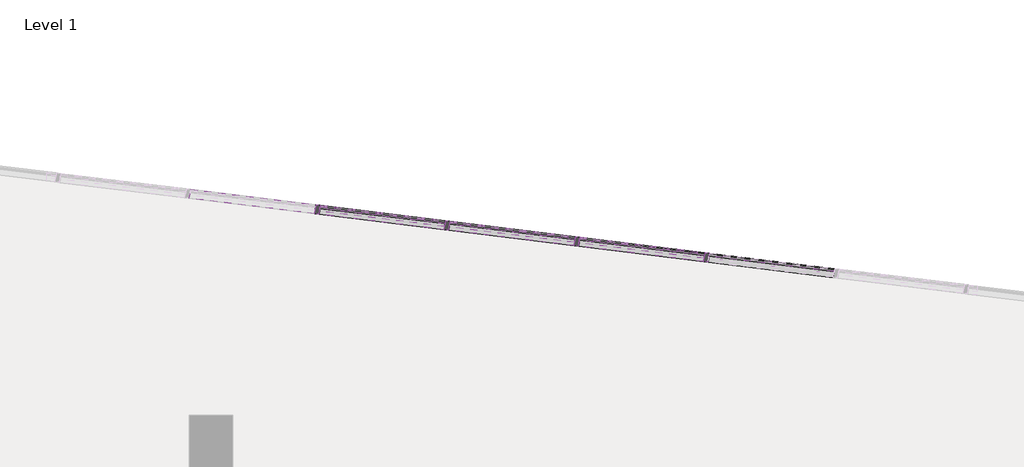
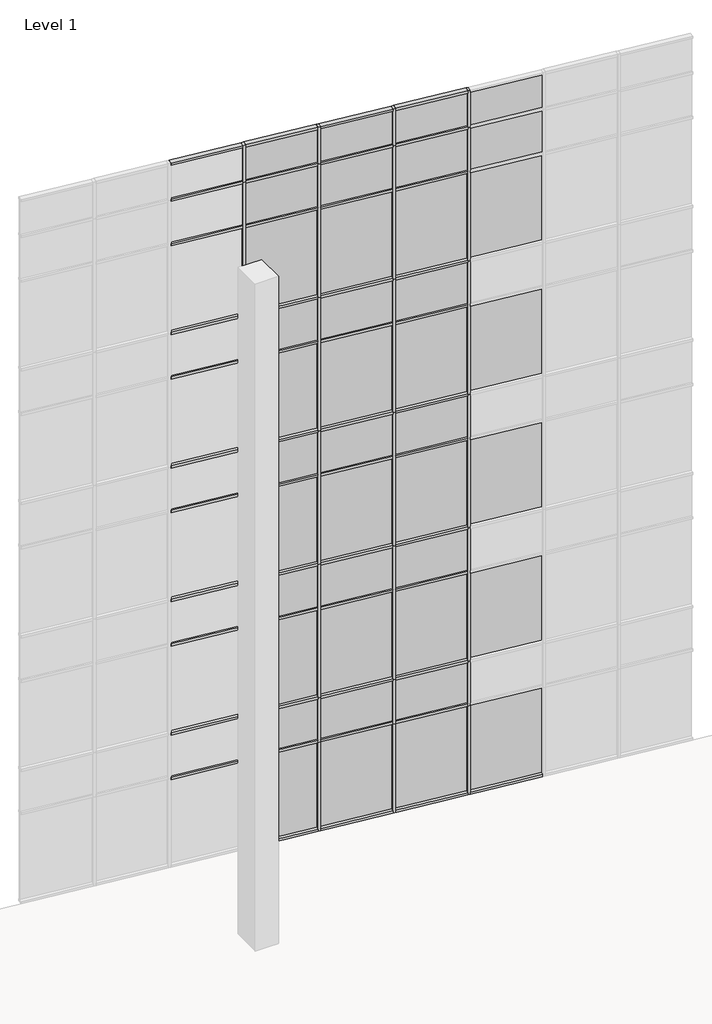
# One storey, part 19 of 23: 76 members, 40 plates.
"""IFC4 building model written with IfcOpenShell, lengths in millimetres."""

from ifc_helpers import new_model, si_unit, origin, place, context, project, spatial, transform, mapped, element, save
from components import member_2b49869a, member_f92b8aa2, member_810865a4, member_f0fea5a5, member_6d5c3e5e, member_9764dd38, system_panel_glazed_14c75400, system_panel_solid_5dfe6f83, system_panel_solid_e25e2004, system_panel_solid_b7551183

model = new_model("IFC4")

# Units and contexts
model_context = context("Model", 3, world=origin())
ifc_project = project(units=[si_unit("LENGTHUNIT", "METRE", prefix="MILLI")], contexts=[model_context])

# Site, building, storey
site = spatial("IfcSite", under=ifc_project)
building = spatial("IfcBuilding", under=site)
storey = spatial("IfcBuildingStorey", under=building, Name="Level 1", Elevation=0.0)

# Members
placement = place(None, origin())
member_shape = member_2b49869a(model_context)
element("IfcMember", 1, ObjectType="Rectangular Mullion : 2.5\" x 5\" rectangular", at=placement, inside=storey, context=model_context, shape_type="MappedRepresentation", body=[
    mapped(member_shape, transform((-5700.4995571, 12571.2945117, 2438.4), x_axis=(0.9925461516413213, -0.12186934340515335, 0.0), y_axis=(-0.12186934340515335, -0.9925461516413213, 0.0), z_axis=(0.0, 0.0, -1.0))),
])
element("IfcMember", 2, ObjectType="Rectangular Mullion : 2.5\" x 5\" rectangular", at=placement, inside=storey, context=model_context, shape_type="MappedRepresentation", body=[
    mapped(member_shape, transform((-2070.1627529, 12125.5452013, 2438.4), x_axis=(0.9925461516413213, -0.12186934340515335, 0.0), y_axis=(-0.12186934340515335, -0.9925461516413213, 0.0), z_axis=(0.0, 0.0, -1.0))),
])
element("IfcMember", 3, ObjectType="Rectangular Mullion : 2.5\" x 5\" rectangular", at=placement, inside=storey, context=model_context, shape_type="MappedRepresentation", body=[
    mapped(member_shape, transform((-3885.331155, 12348.4198565, 2438.4), x_axis=(0.9925461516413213, -0.12186934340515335, 0.0), y_axis=(-0.12186934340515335, -0.9925461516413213, 0.0), z_axis=(0.0, 0.0, -1.0))),
])
member_2_shape = member_f92b8aa2(model_context)
element("IfcMember", 4, ObjectType="Rectangular Mullion : 2.5\" x 5\" rectangular", at=placement, inside=storey, context=model_context, shape_type="MappedRepresentation", body=[
    mapped(member_2_shape, transform((-5700.4995571, 12571.2945117, 18288.0), x_axis=(0.9925461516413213, -0.12186934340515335, 0.0), y_axis=(-0.12186934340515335, -0.9925461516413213, 0.0), z_axis=(0.0, 0.0, -1.0))),
])
element("IfcMember", 5, ObjectType="Rectangular Mullion : 2.5\" x 5\" rectangular", at=placement, inside=storey, context=model_context, shape_type="MappedRepresentation", body=[
    mapped(member_2_shape, transform((-7515.6679592, 12794.169167, 18288.0), x_axis=(0.9925461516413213, -0.12186934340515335, 0.0), y_axis=(-0.12186934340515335, -0.9925461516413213, 0.0), z_axis=(0.0, 0.0, -1.0))),
])
element("IfcMember", 6, ObjectType="Rectangular Mullion : 2.5\" x 5\" rectangular", at=placement, inside=storey, context=model_context, shape_type="MappedRepresentation", body=[
    mapped(member_2_shape, transform((-2070.1627529, 12125.5452013, 18288.0), x_axis=(0.9925461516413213, -0.12186934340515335, 0.0), y_axis=(-0.12186934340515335, -0.9925461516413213, 0.0), z_axis=(0.0, 0.0, -1.0))),
])
element("IfcMember", 7, ObjectType="Rectangular Mullion : 2.5\" x 5\" rectangular", at=placement, inside=storey, context=model_context, shape_type="MappedRepresentation", body=[
    mapped(member_2_shape, transform((-3885.331155, 12348.4198565, 18288.0), x_axis=(0.9925461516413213, -0.12186934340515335, 0.0), y_axis=(-0.12186934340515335, -0.9925461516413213, 0.0), z_axis=(0.0, 0.0, -1.0))),
])
member_3_shape = member_810865a4(model_context)
element("IfcMember", 8, ObjectType="Rectangular Mullion : 2.5\" x 5\" rectangular", at=placement, inside=storey, context=model_context, shape_type="MappedRepresentation", body=[
    mapped(member_3_shape, transform((-3885.331155, 12348.4198565, 7315.2), x_axis=(0.9925461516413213, -0.12186934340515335, 0.0), y_axis=(-0.12186934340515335, -0.9925461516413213, 0.0), z_axis=(0.0, 0.0, -1.0))),
])
element("IfcMember", 9, ObjectType="Rectangular Mullion : 2.5\" x 5\" rectangular", at=placement, inside=storey, context=model_context, shape_type="MappedRepresentation", body=[
    mapped(member_3_shape, transform((-3885.331155, 12348.4198565, 3657.6), x_axis=(0.9925461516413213, -0.12186934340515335, 0.0), y_axis=(-0.12186934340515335, -0.9925461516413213, 0.0), z_axis=(0.0, 0.0, -1.0))),
])
element("IfcMember", 10, ObjectType="Rectangular Mullion : 2.5\" x 5\" rectangular", at=placement, inside=storey, context=model_context, shape_type="MappedRepresentation", body=[
    mapped(member_3_shape, transform((-5700.4995571, 12571.2945117, 14630.4), x_axis=(0.9925461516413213, -0.12186934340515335, 0.0), y_axis=(-0.12186934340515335, -0.9925461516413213, 0.0), z_axis=(0.0, 0.0, -1.0))),
])
element("IfcMember", 11, ObjectType="Rectangular Mullion : 2.5\" x 5\" rectangular", at=placement, inside=storey, context=model_context, shape_type="MappedRepresentation", body=[
    mapped(member_3_shape, transform((-5700.4995571, 12571.2945117, 10972.8), x_axis=(0.9925461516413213, -0.12186934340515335, 0.0), y_axis=(-0.12186934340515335, -0.9925461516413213, 0.0), z_axis=(0.0, 0.0, -1.0))),
])
element("IfcMember", 12, ObjectType="Rectangular Mullion : 2.5\" x 5\" rectangular", at=placement, inside=storey, context=model_context, shape_type="MappedRepresentation", body=[
    mapped(member_3_shape, transform((-5700.4995571, 12571.2945117, 7315.2), x_axis=(0.9925461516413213, -0.12186934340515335, 0.0), y_axis=(-0.12186934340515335, -0.9925461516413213, 0.0), z_axis=(0.0, 0.0, -1.0))),
])
element("IfcMember", 13, ObjectType="Rectangular Mullion : 2.5\" x 5\" rectangular", at=placement, inside=storey, context=model_context, shape_type="MappedRepresentation", body=[
    mapped(member_3_shape, transform((-5700.4995571, 12571.2945117, 3657.6), x_axis=(0.9925461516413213, -0.12186934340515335, 0.0), y_axis=(-0.12186934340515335, -0.9925461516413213, 0.0), z_axis=(0.0, 0.0, -1.0))),
])
element("IfcMember", 14, ObjectType="Rectangular Mullion : 2.5\" x 5\" rectangular", at=placement, inside=storey, context=model_context, shape_type="MappedRepresentation", body=[
    mapped(member_3_shape, transform((-7515.6679592, 12794.169167, 14630.4), x_axis=(0.9925461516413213, -0.12186934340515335, 0.0), y_axis=(-0.12186934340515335, -0.9925461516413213, 0.0), z_axis=(0.0, 0.0, -1.0))),
])
element("IfcMember", 15, ObjectType="Rectangular Mullion : 2.5\" x 5\" rectangular", at=placement, inside=storey, context=model_context, shape_type="MappedRepresentation", body=[
    mapped(member_3_shape, transform((-7515.6679592, 12794.169167, 10972.8), x_axis=(0.9925461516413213, -0.12186934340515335, 0.0), y_axis=(-0.12186934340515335, -0.9925461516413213, 0.0), z_axis=(0.0, 0.0, -1.0))),
])
element("IfcMember", 16, ObjectType="Rectangular Mullion : 2.5\" x 5\" rectangular", at=placement, inside=storey, context=model_context, shape_type="MappedRepresentation", body=[
    mapped(member_3_shape, transform((-7515.6679592, 12794.169167, 7315.2), x_axis=(0.9925461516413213, -0.12186934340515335, 0.0), y_axis=(-0.12186934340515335, -0.9925461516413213, 0.0), z_axis=(0.0, 0.0, -1.0))),
])
element("IfcMember", 17, ObjectType="Rectangular Mullion : 2.5\" x 5\" rectangular", at=placement, inside=storey, context=model_context, shape_type="MappedRepresentation", body=[
    mapped(member_3_shape, transform((-7515.6679592, 12794.169167, 3657.6), x_axis=(0.9925461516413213, -0.12186934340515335, 0.0), y_axis=(-0.12186934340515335, -0.9925461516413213, 0.0), z_axis=(0.0, 0.0, -1.0))),
])
element("IfcMember", 18, ObjectType="Rectangular Mullion : 2.5\" x 5\" rectangular", at=placement, inside=storey, context=model_context, shape_type="MappedRepresentation", body=[
    mapped(member_3_shape, transform((-2070.1627529, 12125.5452013, 14630.4), x_axis=(0.9925461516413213, -0.12186934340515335, 0.0), y_axis=(-0.12186934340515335, -0.9925461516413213, 0.0), z_axis=(0.0, 0.0, -1.0))),
])
element("IfcMember", 19, ObjectType="Rectangular Mullion : 2.5\" x 5\" rectangular", at=placement, inside=storey, context=model_context, shape_type="MappedRepresentation", body=[
    mapped(member_3_shape, transform((-2070.1627529, 12125.5452013, 10972.8), x_axis=(0.9925461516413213, -0.12186934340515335, 0.0), y_axis=(-0.12186934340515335, -0.9925461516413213, 0.0), z_axis=(0.0, 0.0, -1.0))),
])
element("IfcMember", 20, ObjectType="Rectangular Mullion : 2.5\" x 5\" rectangular", at=placement, inside=storey, context=model_context, shape_type="MappedRepresentation", body=[
    mapped(member_3_shape, transform((-2070.1627529, 12125.5452013, 7315.2), x_axis=(0.9925461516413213, -0.12186934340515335, 0.0), y_axis=(-0.12186934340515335, -0.9925461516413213, 0.0), z_axis=(0.0, 0.0, -1.0))),
])
element("IfcMember", 21, ObjectType="Rectangular Mullion : 2.5\" x 5\" rectangular", at=placement, inside=storey, context=model_context, shape_type="MappedRepresentation", body=[
    mapped(member_3_shape, transform((-2070.1627529, 12125.5452013, 3657.6), x_axis=(0.9925461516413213, -0.12186934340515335, 0.0), y_axis=(-0.12186934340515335, -0.9925461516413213, 0.0), z_axis=(0.0, 0.0, -1.0))),
])
element("IfcMember", 22, ObjectType="Rectangular Mullion : 2.5\" x 5\" rectangular", at=placement, inside=storey, context=model_context, shape_type="MappedRepresentation", body=[
    mapped(member_3_shape, transform((-3885.331155, 12348.4198565, 14630.4), x_axis=(0.9925461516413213, -0.12186934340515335, 0.0), y_axis=(-0.12186934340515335, -0.9925461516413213, 0.0), z_axis=(0.0, 0.0, -1.0))),
])
element("IfcMember", 23, ObjectType="Rectangular Mullion : 2.5\" x 5\" rectangular", at=placement, inside=storey, context=model_context, shape_type="MappedRepresentation", body=[
    mapped(member_3_shape, transform((-3885.331155, 12348.4198565, 10972.8), x_axis=(0.9925461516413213, -0.12186934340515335, 0.0), y_axis=(-0.12186934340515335, -0.9925461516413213, 0.0), z_axis=(0.0, 0.0, -1.0))),
])
member_4_shape = member_f0fea5a5(model_context)
element("IfcMember", 24, ObjectType="Rectangular Mullion : 2.5\" x 5\" rectangular", at=placement, inside=storey, context=model_context, shape_type="MappedRepresentation", body=[
    mapped(member_4_shape, transform((-3885.331155, 12348.4198565, 0.0), x_axis=(0.9925461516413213, -0.12186934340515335, 0.0), y_axis=(-0.12186934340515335, -0.9925461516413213, 0.0), z_axis=(0.0, 0.0, -1.0))),
])
element("IfcMember", 25, ObjectType="Rectangular Mullion : 2.5\" x 5\" rectangular", at=placement, inside=storey, context=model_context, shape_type="MappedRepresentation", body=[
    mapped(member_4_shape, transform((-5700.4995571, 12571.2945117, 0.0), x_axis=(0.9925461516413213, -0.12186934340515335, 0.0), y_axis=(-0.12186934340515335, -0.9925461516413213, 0.0), z_axis=(0.0, 0.0, -1.0))),
])
element("IfcMember", 26, ObjectType="Rectangular Mullion : 2.5\" x 5\" rectangular", at=placement, inside=storey, context=model_context, shape_type="MappedRepresentation", body=[
    mapped(member_4_shape, transform((-2070.1627529, 12125.5452013, 0.0), x_axis=(0.9925461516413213, -0.12186934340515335, 0.0), y_axis=(-0.12186934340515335, -0.9925461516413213, 0.0), z_axis=(0.0, 0.0, -1.0))),
])
element("IfcMember", 27, ObjectType="Rectangular Mullion : 2.5\" x 5\" rectangular", at=placement, inside=storey, context=model_context, shape_type="MappedRepresentation", body=[
    mapped(member_4_shape, transform((-7515.6679592, 12794.169167, 0.0), x_axis=(0.9925461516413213, -0.12186934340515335, 0.0), y_axis=(-0.12186934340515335, -0.9925461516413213, 0.0), z_axis=(0.0, 0.0, -1.0))),
])
element("IfcMember", 28, ObjectType="Rectangular Mullion : 2.5\" x 5\" rectangular", at=placement, inside=storey, context=model_context, shape_type="MappedRepresentation", body=[
    mapped(member_shape, transform((-7515.6679592, 12794.169167, 2438.4), x_axis=(0.9925461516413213, -0.12186934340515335, 0.0), y_axis=(-0.12186934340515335, -0.9925461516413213, 0.0), z_axis=(0.0, 0.0, -1.0))),
])
member_5_shape = member_6d5c3e5e(model_context)
element("IfcMember", 29, ObjectType="Rectangular Mullion : 2.5\" x 5\" rectangular", at=placement, inside=storey, context=model_context, shape_type="MappedRepresentation", body=[
    mapped(member_5_shape, transform((-2101.6760932, 12129.414553, 19304.0), x_axis=(0.0, 0.0, 1.0), y_axis=(-0.12186934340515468, -0.9925461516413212, 0.0), z_axis=(0.9925461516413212, -0.12186934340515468, 0.0))),
])
element("IfcMember", 30, ObjectType="Rectangular Mullion : 2.5\" x 5\" rectangular", at=placement, inside=storey, context=model_context, shape_type="MappedRepresentation", body=[
    mapped(member_5_shape, transform((-3916.8444953, 12352.2892082, 19304.0), x_axis=(0.0, 0.0, 1.0), y_axis=(-0.12186934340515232, -0.9925461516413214, 0.0), z_axis=(0.9925461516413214, -0.12186934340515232, 0.0))),
])
element("IfcMember", 31, ObjectType="Rectangular Mullion : 2.5\" x 5\" rectangular", at=placement, inside=storey, context=model_context, shape_type="MappedRepresentation", body=[
    mapped(member_5_shape, transform((-5732.0128974, 12575.1638634, 19304.0), x_axis=(0.0, 0.0, 1.0), y_axis=(-0.12186934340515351, -0.9925461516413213, 0.0), z_axis=(0.9925461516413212, -0.1218693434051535, 0.0))),
])
element("IfcMember", 32, ObjectType="Rectangular Mullion : 2.5\" x 5\" rectangular", at=placement, inside=storey, context=model_context, shape_type="MappedRepresentation", body=[
    mapped(member_5_shape, transform((-7547.1812995, 12798.0385186, 19304.0), x_axis=(0.0, 0.0, 1.0), y_axis=(-0.12186934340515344, -0.9925461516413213, 0.0), z_axis=(0.9925461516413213, -0.12186934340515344, 0.0))),
])
member_6_shape = member_9764dd38(model_context)
element("IfcMember", 33, ObjectType="Rectangular Mullion : 2.5\" x 5\" rectangular", at=placement, inside=storey, context=model_context, shape_type="MappedRepresentation", body=[
    mapped(member_6_shape, transform((-2101.6760932, 12129.414553, 17068.8), x_axis=(0.0, 0.0, 1.0), y_axis=(-0.12186934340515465, -0.9925461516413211, 0.0), z_axis=(0.9925461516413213, -0.12186934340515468, 0.0))),
])
element("IfcMember", 34, ObjectType="Rectangular Mullion : 2.5\" x 5\" rectangular", at=placement, inside=storey, context=model_context, shape_type="MappedRepresentation", body=[
    mapped(member_6_shape, transform((-3916.8444953, 12352.2892082, 17068.8), x_axis=(0.0, 0.0, 1.0), y_axis=(-0.1218693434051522, -0.9925461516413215, 0.0), z_axis=(0.9925461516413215, -0.1218693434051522, 0.0))),
])
element("IfcMember", 35, ObjectType="Rectangular Mullion : 2.5\" x 5\" rectangular", at=placement, inside=storey, context=model_context, shape_type="MappedRepresentation", body=[
    mapped(member_6_shape, transform((-5732.0128974, 12575.1638634, 17068.8), x_axis=(0.0, 0.0, 1.0), y_axis=(-0.12186934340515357, -0.9925461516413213, 0.0), z_axis=(0.9925461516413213, -0.12186934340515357, 0.0))),
])
element("IfcMember", 36, ObjectType="Rectangular Mullion : 2.5\" x 5\" rectangular", at=placement, inside=storey, context=model_context, shape_type="MappedRepresentation", body=[
    mapped(member_6_shape, transform((-7547.1812995, 12798.0385186, 17068.8), x_axis=(0.0, 0.0, 1.0), y_axis=(-0.12186934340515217, -0.9925461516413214, 0.0), z_axis=(0.9925461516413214, -0.12186934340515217, 0.0))),
])
element("IfcMember", 37, ObjectType="Rectangular Mullion : 2.5\" x 5\" rectangular", at=placement, inside=storey, context=model_context, shape_type="MappedRepresentation", body=[
    mapped(member_6_shape, transform((-2101.6760932, 12129.414553, 13411.2), x_axis=(0.0, 0.0, 1.0), y_axis=(-0.12186934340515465, -0.9925461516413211, 0.0), z_axis=(0.9925461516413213, -0.12186934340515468, 0.0))),
])
element("IfcMember", 38, ObjectType="Rectangular Mullion : 2.5\" x 5\" rectangular", at=placement, inside=storey, context=model_context, shape_type="MappedRepresentation", body=[
    mapped(member_6_shape, transform((-3916.8444953, 12352.2892082, 13411.2), x_axis=(0.0, 0.0, 1.0), y_axis=(-0.1218693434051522, -0.9925461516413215, 0.0), z_axis=(0.9925461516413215, -0.1218693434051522, 0.0))),
])
element("IfcMember", 39, ObjectType="Rectangular Mullion : 2.5\" x 5\" rectangular", at=placement, inside=storey, context=model_context, shape_type="MappedRepresentation", body=[
    mapped(member_6_shape, transform((-5732.0128974, 12575.1638634, 13411.2), x_axis=(0.0, 0.0, 1.0), y_axis=(-0.12186934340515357, -0.9925461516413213, 0.0), z_axis=(0.9925461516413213, -0.12186934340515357, 0.0))),
])
element("IfcMember", 40, ObjectType="Rectangular Mullion : 2.5\" x 5\" rectangular", at=placement, inside=storey, context=model_context, shape_type="MappedRepresentation", body=[
    mapped(member_6_shape, transform((-7547.1812995, 12798.0385186, 13411.2), x_axis=(0.0, 0.0, 1.0), y_axis=(-0.12186934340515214, -0.9925461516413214, 0.0), z_axis=(0.9925461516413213, -0.12186934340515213, 0.0))),
])
element("IfcMember", 41, ObjectType="Rectangular Mullion : 2.5\" x 5\" rectangular", at=placement, inside=storey, context=model_context, shape_type="MappedRepresentation", body=[
    mapped(member_6_shape, transform((-2101.6760932, 12129.414553, 9753.6), x_axis=(0.0, 0.0, 1.0), y_axis=(-0.12186934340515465, -0.9925461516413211, 0.0), z_axis=(0.9925461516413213, -0.12186934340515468, 0.0))),
])
element("IfcMember", 42, ObjectType="Rectangular Mullion : 2.5\" x 5\" rectangular", at=placement, inside=storey, context=model_context, shape_type="MappedRepresentation", body=[
    mapped(member_6_shape, transform((-3916.8444953, 12352.2892082, 9753.6), x_axis=(0.0, 0.0, 1.0), y_axis=(-0.12186934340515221, -0.9925461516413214, 0.0), z_axis=(0.9925461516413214, -0.12186934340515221, 0.0))),
])
element("IfcMember", 43, ObjectType="Rectangular Mullion : 2.5\" x 5\" rectangular", at=placement, inside=storey, context=model_context, shape_type="MappedRepresentation", body=[
    mapped(member_6_shape, transform((-5732.0128974, 12575.1638634, 9753.6), x_axis=(0.0, 0.0, 1.0), y_axis=(-0.12186934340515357, -0.9925461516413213, 0.0), z_axis=(0.9925461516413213, -0.12186934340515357, 0.0))),
])
element("IfcMember", 44, ObjectType="Rectangular Mullion : 2.5\" x 5\" rectangular", at=placement, inside=storey, context=model_context, shape_type="MappedRepresentation", body=[
    mapped(member_6_shape, transform((-7547.1812995, 12798.0385186, 9753.6), x_axis=(0.0, 0.0, 1.0), y_axis=(-0.12186934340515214, -0.9925461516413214, 0.0), z_axis=(0.9925461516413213, -0.12186934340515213, 0.0))),
])
element("IfcMember", 45, ObjectType="Rectangular Mullion : 2.5\" x 5\" rectangular", at=placement, inside=storey, context=model_context, shape_type="MappedRepresentation", body=[
    mapped(member_6_shape, transform((-2101.6760932, 12129.414553, 6096.0), x_axis=(0.0, 0.0, 1.0), y_axis=(-0.12186934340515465, -0.9925461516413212, 0.0), z_axis=(0.9925461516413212, -0.12186934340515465, 0.0))),
])
element("IfcMember", 46, ObjectType="Rectangular Mullion : 2.5\" x 5\" rectangular", at=placement, inside=storey, context=model_context, shape_type="MappedRepresentation", body=[
    mapped(member_6_shape, transform((-3916.8444953, 12352.2892082, 6096.0), x_axis=(0.0, 0.0, 1.0), y_axis=(-0.12186934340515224, -0.9925461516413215, 0.0), z_axis=(0.9925461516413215, -0.12186934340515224, 0.0))),
])
element("IfcMember", 47, ObjectType="Rectangular Mullion : 2.5\" x 5\" rectangular", at=placement, inside=storey, context=model_context, shape_type="MappedRepresentation", body=[
    mapped(member_6_shape, transform((-5732.0128974, 12575.1638634, 6096.0), x_axis=(0.0, 0.0, 1.0), y_axis=(-0.12186934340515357, -0.9925461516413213, 0.0), z_axis=(0.9925461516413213, -0.12186934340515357, 0.0))),
])
element("IfcMember", 48, ObjectType="Rectangular Mullion : 2.5\" x 5\" rectangular", at=placement, inside=storey, context=model_context, shape_type="MappedRepresentation", body=[
    mapped(member_6_shape, transform((-7547.1812995, 12798.0385186, 6096.0), x_axis=(0.0, 0.0, 1.0), y_axis=(-0.12186934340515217, -0.9925461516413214, 0.0), z_axis=(0.9925461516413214, -0.12186934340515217, 0.0))),
])
element("IfcMember", 49, ObjectType="Rectangular Mullion : 2.5\" x 5\" rectangular", at=placement, inside=storey, context=model_context, shape_type="MappedRepresentation", body=[
    mapped(member_6_shape, transform((-2101.6760932, 12129.414553, 2470.15), x_axis=(0.0, 0.0, 1.0), y_axis=(-0.12186934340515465, -0.9925461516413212, 0.0), z_axis=(0.9925461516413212, -0.12186934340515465, 0.0))),
])
element("IfcMember", 50, ObjectType="Rectangular Mullion : 2.5\" x 5\" rectangular", at=placement, inside=storey, context=model_context, shape_type="MappedRepresentation", body=[
    mapped(member_6_shape, transform((-3916.8444953, 12352.2892082, 2470.15), x_axis=(0.0, 0.0, 1.0), y_axis=(-0.12186934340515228, -0.9925461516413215, 0.0), z_axis=(0.9925461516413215, -0.12186934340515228, 0.0))),
])
element("IfcMember", 51, ObjectType="Rectangular Mullion : 2.5\" x 5\" rectangular", at=placement, inside=storey, context=model_context, shape_type="MappedRepresentation", body=[
    mapped(member_6_shape, transform((-5732.0128974, 12575.1638634, 2470.15), x_axis=(0.0, 0.0, 1.0), y_axis=(-0.12186934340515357, -0.9925461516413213, 0.0), z_axis=(0.9925461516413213, -0.12186934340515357, 0.0))),
])
element("IfcMember", 52, ObjectType="Rectangular Mullion : 2.5\" x 5\" rectangular", at=placement, inside=storey, context=model_context, shape_type="MappedRepresentation", body=[
    mapped(member_5_shape, transform((-2038.6494126, 12121.6758497, 0.0), x_axis=(0.0, 0.0, -1.0), y_axis=(-0.12186934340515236, -0.9925461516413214, 0.0), z_axis=(-0.9925461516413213, 0.12186934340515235, 0.0))),
])
element("IfcMember", 53, ObjectType="Rectangular Mullion : 2.5\" x 5\" rectangular", at=placement, inside=storey, context=model_context, shape_type="MappedRepresentation", body=[
    mapped(member_5_shape, transform((-3853.8178147, 12344.5505049, 0.0), x_axis=(0.0, 0.0, -1.0), y_axis=(-0.12186934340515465, -0.9925461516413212, 0.0), z_axis=(-0.9925461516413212, 0.12186934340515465, 0.0))),
])
element("IfcMember", 54, ObjectType="Rectangular Mullion : 2.5\" x 5\" rectangular", at=placement, inside=storey, context=model_context, shape_type="MappedRepresentation", body=[
    mapped(member_5_shape, transform((-5668.9862168, 12567.4251601, 0.0), x_axis=(0.0, 0.0, -1.0), y_axis=(-0.12186934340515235, -0.9925461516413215, 0.0), z_axis=(-0.9925461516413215, 0.12186934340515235, 0.0))),
])
element("IfcMember", 55, ObjectType="Rectangular Mullion : 2.5\" x 5\" rectangular", at=placement, inside=storey, context=model_context, shape_type="MappedRepresentation", body=[
    mapped(member_5_shape, transform((-7484.1546189, 12790.2998153, 0.0), x_axis=(0.0, 0.0, -1.0), y_axis=(-0.12186934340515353, -0.9925461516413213, 0.0), z_axis=(-0.9925461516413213, 0.12186934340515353, 0.0))),
])
element("IfcMember", 56, ObjectType="Rectangular Mullion : 2.5\" x 5\" rectangular", at=placement, inside=storey, context=model_context, shape_type="MappedRepresentation", body=[
    mapped(member_6_shape, transform((-2101.6760932, 12129.414553, 3657.6), x_axis=(0.0, 0.0, 1.0), y_axis=(-0.12186934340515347, -0.9925461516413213, 0.0), z_axis=(0.9925461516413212, -0.12186934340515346, 0.0))),
])
element("IfcMember", 57, ObjectType="Rectangular Mullion : 2.5\" x 5\" rectangular", at=placement, inside=storey, context=model_context, shape_type="MappedRepresentation", body=[
    mapped(member_6_shape, transform((-3916.8444953, 12352.2892082, 3657.6), x_axis=(0.0, 0.0, 1.0), y_axis=(-0.12186934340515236, -0.9925461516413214, 0.0), z_axis=(0.9925461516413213, -0.12186934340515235, 0.0))),
])
element("IfcMember", 58, ObjectType="Rectangular Mullion : 2.5\" x 5\" rectangular", at=placement, inside=storey, context=model_context, shape_type="MappedRepresentation", body=[
    mapped(member_6_shape, transform((-5732.0128974, 12575.1638634, 3657.6), x_axis=(0.0, 0.0, 1.0), y_axis=(-0.12186934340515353, -0.9925461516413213, 0.0), z_axis=(0.9925461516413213, -0.12186934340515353, 0.0))),
])
element("IfcMember", 59, ObjectType="Rectangular Mullion : 2.5\" x 5\" rectangular", at=placement, inside=storey, context=model_context, shape_type="MappedRepresentation", body=[
    mapped(member_6_shape, transform((-7547.1812995, 12798.0385186, 3657.6), x_axis=(0.0, 0.0, 1.0), y_axis=(-0.12186934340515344, -0.9925461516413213, 0.0), z_axis=(0.9925461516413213, -0.12186934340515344, 0.0))),
])
element("IfcMember", 60, ObjectType="Rectangular Mullion : 2.5\" x 5\" rectangular", at=placement, inside=storey, context=model_context, shape_type="MappedRepresentation", body=[
    mapped(member_6_shape, transform((-2101.6760932, 12129.414553, 10972.8), x_axis=(0.0, 0.0, 1.0), y_axis=(-0.12186934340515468, -0.9925461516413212, 0.0), z_axis=(0.9925461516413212, -0.12186934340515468, 0.0))),
])
element("IfcMember", 61, ObjectType="Rectangular Mullion : 2.5\" x 5\" rectangular", at=placement, inside=storey, context=model_context, shape_type="MappedRepresentation", body=[
    mapped(member_6_shape, transform((-3916.8444953, 12352.2892082, 10972.8), x_axis=(0.0, 0.0, 1.0), y_axis=(-0.12186934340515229, -0.9925461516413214, 0.0), z_axis=(0.9925461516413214, -0.12186934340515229, 0.0))),
])
element("IfcMember", 62, ObjectType="Rectangular Mullion : 2.5\" x 5\" rectangular", at=placement, inside=storey, context=model_context, shape_type="MappedRepresentation", body=[
    mapped(member_6_shape, transform((-5732.0128974, 12575.1638634, 10972.8), x_axis=(0.0, 0.0, 1.0), y_axis=(-0.12186934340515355, -0.9925461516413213, 0.0), z_axis=(0.9925461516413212, -0.12186934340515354, 0.0))),
])
element("IfcMember", 63, ObjectType="Rectangular Mullion : 2.5\" x 5\" rectangular", at=placement, inside=storey, context=model_context, shape_type="MappedRepresentation", body=[
    mapped(member_6_shape, transform((-7547.1812995, 12798.0385186, 10972.8), x_axis=(0.0, 0.0, 1.0), y_axis=(-0.12186934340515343, -0.9925461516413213, 0.0), z_axis=(0.9925461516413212, -0.12186934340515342, 0.0))),
])
element("IfcMember", 64, ObjectType="Rectangular Mullion : 2.5\" x 5\" rectangular", at=placement, inside=storey, context=model_context, shape_type="MappedRepresentation", body=[
    mapped(member_6_shape, transform((-2101.6760932, 12129.414553, 14630.4), x_axis=(0.0, 0.0, 1.0), y_axis=(-0.12186934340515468, -0.9925461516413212, 0.0), z_axis=(0.9925461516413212, -0.12186934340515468, 0.0))),
])
element("IfcMember", 65, ObjectType="Rectangular Mullion : 2.5\" x 5\" rectangular", at=placement, inside=storey, context=model_context, shape_type="MappedRepresentation", body=[
    mapped(member_6_shape, transform((-3916.8444953, 12352.2892082, 14630.4), x_axis=(0.0, 0.0, 1.0), y_axis=(-0.12186934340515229, -0.9925461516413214, 0.0), z_axis=(0.9925461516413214, -0.12186934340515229, 0.0))),
])
element("IfcMember", 66, ObjectType="Rectangular Mullion : 2.5\" x 5\" rectangular", at=placement, inside=storey, context=model_context, shape_type="MappedRepresentation", body=[
    mapped(member_6_shape, transform((-5732.0128974, 12575.1638634, 14630.4), x_axis=(0.0, 0.0, 1.0), y_axis=(-0.12186934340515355, -0.9925461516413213, 0.0), z_axis=(0.9925461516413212, -0.12186934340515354, 0.0))),
])
element("IfcMember", 67, ObjectType="Rectangular Mullion : 2.5\" x 5\" rectangular", at=placement, inside=storey, context=model_context, shape_type="MappedRepresentation", body=[
    mapped(member_6_shape, transform((-7547.1812995, 12798.0385186, 14630.4), x_axis=(0.0, 0.0, 1.0), y_axis=(-0.12186934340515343, -0.9925461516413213, 0.0), z_axis=(0.9925461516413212, -0.12186934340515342, 0.0))),
])
element("IfcMember", 68, ObjectType="Rectangular Mullion : 2.5\" x 5\" rectangular", at=placement, inside=storey, context=model_context, shape_type="MappedRepresentation", body=[
    mapped(member_6_shape, transform((-2101.6760932, 12129.414553, 7315.2), x_axis=(0.0, 0.0, 1.0), y_axis=(-0.12186934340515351, -0.9925461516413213, 0.0), z_axis=(0.9925461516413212, -0.1218693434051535, 0.0))),
])
element("IfcMember", 69, ObjectType="Rectangular Mullion : 2.5\" x 5\" rectangular", at=placement, inside=storey, context=model_context, shape_type="MappedRepresentation", body=[
    mapped(member_6_shape, transform((-3916.8444953, 12352.2892082, 7315.2), x_axis=(0.0, 0.0, 1.0), y_axis=(-0.12186934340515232, -0.9925461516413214, 0.0), z_axis=(0.9925461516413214, -0.12186934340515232, 0.0))),
])
element("IfcMember", 70, ObjectType="Rectangular Mullion : 2.5\" x 5\" rectangular", at=placement, inside=storey, context=model_context, shape_type="MappedRepresentation", body=[
    mapped(member_6_shape, transform((-5732.0128974, 12575.1638634, 7315.2), x_axis=(0.0, 0.0, 1.0), y_axis=(-0.12186934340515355, -0.9925461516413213, 0.0), z_axis=(0.9925461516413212, -0.12186934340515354, 0.0))),
])
element("IfcMember", 71, ObjectType="Rectangular Mullion : 2.5\" x 5\" rectangular", at=placement, inside=storey, context=model_context, shape_type="MappedRepresentation", body=[
    mapped(member_6_shape, transform((-7547.1812995, 12798.0385186, 7315.2), x_axis=(0.0, 0.0, 1.0), y_axis=(-0.12186934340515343, -0.9925461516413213, 0.0), z_axis=(0.9925461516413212, -0.12186934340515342, 0.0))),
])
element("IfcMember", 72, ObjectType="Rectangular Mullion : 2.5\" x 5\" rectangular", at=placement, inside=storey, context=model_context, shape_type="MappedRepresentation", body=[
    mapped(member_6_shape, transform((-7547.1812995, 12798.0385186, 2438.4), x_axis=(0.0, 0.0, 1.0), y_axis=(-0.12186934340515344, -0.9925461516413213, 0.0), z_axis=(0.9925461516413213, -0.12186934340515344, 0.0))),
])
element("IfcMember", 73, ObjectType="Rectangular Mullion : 2.5\" x 5\" rectangular", at=placement, inside=storey, context=model_context, shape_type="MappedRepresentation", body=[
    mapped(member_6_shape, transform((-2101.6760932, 12129.414553, 18288.0), x_axis=(0.0, 0.0, 1.0), y_axis=(-0.12186934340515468, -0.9925461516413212, 0.0), z_axis=(0.9925461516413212, -0.12186934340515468, 0.0))),
])
element("IfcMember", 74, ObjectType="Rectangular Mullion : 2.5\" x 5\" rectangular", at=placement, inside=storey, context=model_context, shape_type="MappedRepresentation", body=[
    mapped(member_6_shape, transform((-3916.8444953, 12352.2892082, 18288.0), x_axis=(0.0, 0.0, 1.0), y_axis=(-0.12186934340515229, -0.9925461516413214, 0.0), z_axis=(0.9925461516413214, -0.12186934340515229, 0.0))),
])
element("IfcMember", 75, ObjectType="Rectangular Mullion : 2.5\" x 5\" rectangular", at=placement, inside=storey, context=model_context, shape_type="MappedRepresentation", body=[
    mapped(member_6_shape, transform((-5732.0128974, 12575.1638634, 18288.0), x_axis=(0.0, 0.0, 1.0), y_axis=(-0.12186934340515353, -0.9925461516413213, 0.0), z_axis=(0.9925461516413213, -0.12186934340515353, 0.0))),
])
element("IfcMember", 76, ObjectType="Rectangular Mullion : 2.5\" x 5\" rectangular", at=placement, inside=storey, context=model_context, shape_type="MappedRepresentation", body=[
    mapped(member_6_shape, transform((-7547.1812995, 12798.0385186, 18288.0), x_axis=(0.0, 0.0, 1.0), y_axis=(-0.12186934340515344, -0.9925461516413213, 0.0), z_axis=(0.9925461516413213, -0.12186934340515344, 0.0))),
])

# Plates
system_panel_glazed_shape = system_panel_glazed_14c75400(model_context)
element("IfcPlate", 77, ObjectType="System Panel : Glazed", at=placement, inside=storey, context=model_context, shape_type="MappedRepresentation", body=[
    mapped(system_panel_glazed_shape, transform((-1162.5785518, 12014.1078737, 14662.15), x_axis=(0.9925461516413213, -0.12186934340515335, 0.0), y_axis=(0.12186934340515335, 0.9925461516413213, 0.0), z_axis=(0.0, 0.0, 1.0))),
])
element("IfcPlate", 78, ObjectType="System Panel : Glazed", at=placement, inside=storey, context=model_context, shape_type="MappedRepresentation", body=[
    mapped(system_panel_glazed_shape, transform((-2977.7469539, 12236.9825289, 14662.15), x_axis=(0.9925461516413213, -0.12186934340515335, 0.0), y_axis=(0.12186934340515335, 0.9925461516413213, 0.0), z_axis=(0.0, 0.0, 1.0))),
])
element("IfcPlate", 79, ObjectType="System Panel : Glazed", at=placement, inside=storey, context=model_context, shape_type="MappedRepresentation", body=[
    mapped(system_panel_glazed_shape, transform((-4792.9153561, 12459.8571841, 14662.15), x_axis=(0.9925461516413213, -0.12186934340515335, 0.0), y_axis=(0.12186934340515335, 0.9925461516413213, 0.0), z_axis=(0.0, 0.0, 1.0))),
])
element("IfcPlate", 80, ObjectType="System Panel : Glazed", at=placement, inside=storey, context=model_context, shape_type="MappedRepresentation", body=[
    mapped(system_panel_glazed_shape, transform((-6608.0837582, 12682.7318394, 14662.15), x_axis=(0.9925461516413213, -0.12186934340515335, 0.0), y_axis=(0.12186934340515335, 0.9925461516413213, 0.0), z_axis=(0.0, 0.0, 1.0))),
])
element("IfcPlate", 81, ObjectType="System Panel : Glazed", at=placement, inside=storey, context=model_context, shape_type="MappedRepresentation", body=[
    mapped(system_panel_glazed_shape, transform((-1162.5785518, 12014.1078737, 11004.55), x_axis=(0.9925461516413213, -0.12186934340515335, 0.0), y_axis=(0.12186934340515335, 0.9925461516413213, 0.0), z_axis=(0.0, 0.0, 1.0))),
])
element("IfcPlate", 82, ObjectType="System Panel : Glazed", at=placement, inside=storey, context=model_context, shape_type="MappedRepresentation", body=[
    mapped(system_panel_glazed_shape, transform((-2977.7469539, 12236.9825289, 11004.55), x_axis=(0.9925461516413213, -0.12186934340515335, 0.0), y_axis=(0.12186934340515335, 0.9925461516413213, 0.0), z_axis=(0.0, 0.0, 1.0))),
])
element("IfcPlate", 83, ObjectType="System Panel : Glazed", at=placement, inside=storey, context=model_context, shape_type="MappedRepresentation", body=[
    mapped(system_panel_glazed_shape, transform((-4792.9153561, 12459.8571841, 11004.55), x_axis=(0.9925461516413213, -0.12186934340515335, 0.0), y_axis=(0.12186934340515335, 0.9925461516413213, 0.0), z_axis=(0.0, 0.0, 1.0))),
])
element("IfcPlate", 84, ObjectType="System Panel : Glazed", at=placement, inside=storey, context=model_context, shape_type="MappedRepresentation", body=[
    mapped(system_panel_glazed_shape, transform((-6608.0837582, 12682.7318394, 11004.55), x_axis=(0.9925461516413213, -0.12186934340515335, 0.0), y_axis=(0.12186934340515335, 0.9925461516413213, 0.0), z_axis=(0.0, 0.0, 1.0))),
])
element("IfcPlate", 85, ObjectType="System Panel : Glazed", at=placement, inside=storey, context=model_context, shape_type="MappedRepresentation", body=[
    mapped(system_panel_glazed_shape, transform((-1162.5785518, 12014.1078737, 7346.95), x_axis=(0.9925461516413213, -0.12186934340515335, 0.0), y_axis=(0.12186934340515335, 0.9925461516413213, 0.0), z_axis=(0.0, 0.0, 1.0))),
])
element("IfcPlate", 86, ObjectType="System Panel : Glazed", at=placement, inside=storey, context=model_context, shape_type="MappedRepresentation", body=[
    mapped(system_panel_glazed_shape, transform((-2977.7469539, 12236.9825289, 7346.95), x_axis=(0.9925461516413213, -0.12186934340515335, 0.0), y_axis=(0.12186934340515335, 0.9925461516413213, 0.0), z_axis=(0.0, 0.0, 1.0))),
])
element("IfcPlate", 87, ObjectType="System Panel : Glazed", at=placement, inside=storey, context=model_context, shape_type="MappedRepresentation", body=[
    mapped(system_panel_glazed_shape, transform((-4792.9153561, 12459.8571841, 7346.95), x_axis=(0.9925461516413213, -0.12186934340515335, 0.0), y_axis=(0.12186934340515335, 0.9925461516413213, 0.0), z_axis=(0.0, 0.0, 1.0))),
])
element("IfcPlate", 88, ObjectType="System Panel : Glazed", at=placement, inside=storey, context=model_context, shape_type="MappedRepresentation", body=[
    mapped(system_panel_glazed_shape, transform((-6608.0837582, 12682.7318394, 7346.95), x_axis=(0.9925461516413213, -0.12186934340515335, 0.0), y_axis=(0.12186934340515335, 0.9925461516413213, 0.0), z_axis=(0.0, 0.0, 1.0))),
])
element("IfcPlate", 89, ObjectType="System Panel : Glazed", at=placement, inside=storey, context=model_context, shape_type="MappedRepresentation", body=[
    mapped(system_panel_glazed_shape, transform((-1162.5785518, 12014.1078737, 3689.35), x_axis=(0.9925461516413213, -0.12186934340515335, 0.0), y_axis=(0.12186934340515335, 0.9925461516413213, 0.0), z_axis=(0.0, 0.0, 1.0))),
])
element("IfcPlate", 90, ObjectType="System Panel : Glazed", at=placement, inside=storey, context=model_context, shape_type="MappedRepresentation", body=[
    mapped(system_panel_glazed_shape, transform((-2977.7469539, 12236.9825289, 3689.35), x_axis=(0.9925461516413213, -0.12186934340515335, 0.0), y_axis=(0.12186934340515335, 0.9925461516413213, 0.0), z_axis=(0.0, 0.0, 1.0))),
])
element("IfcPlate", 91, ObjectType="System Panel : Glazed", at=placement, inside=storey, context=model_context, shape_type="MappedRepresentation", body=[
    mapped(system_panel_glazed_shape, transform((-4792.9153561, 12459.8571841, 3689.35), x_axis=(0.9925461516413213, -0.12186934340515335, 0.0), y_axis=(0.12186934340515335, 0.9925461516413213, 0.0), z_axis=(0.0, 0.0, 1.0))),
])
element("IfcPlate", 92, ObjectType="System Panel : Glazed", at=placement, inside=storey, context=model_context, shape_type="MappedRepresentation", body=[
    mapped(system_panel_glazed_shape, transform((-6608.0837582, 12682.7318394, 3689.35), x_axis=(0.9925461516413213, -0.12186934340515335, 0.0), y_axis=(0.12186934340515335, 0.9925461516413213, 0.0), z_axis=(0.0, 0.0, 1.0))),
])
element("IfcPlate", 93, ObjectType="System Panel : Glazed", at=placement, inside=storey, context=model_context, shape_type="MappedRepresentation", body=[
    mapped(system_panel_glazed_shape, transform((-1162.5785518, 12014.1078737, 63.5), x_axis=(0.9925461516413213, -0.12186934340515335, 0.0), y_axis=(0.12186934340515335, 0.9925461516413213, 0.0), z_axis=(0.0, 0.0, 1.0))),
])
element("IfcPlate", 94, ObjectType="System Panel : Glazed", at=placement, inside=storey, context=model_context, shape_type="MappedRepresentation", body=[
    mapped(system_panel_glazed_shape, transform((-2977.7469539, 12236.9825289, 63.5), x_axis=(0.9925461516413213, -0.12186934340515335, 0.0), y_axis=(0.12186934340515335, 0.9925461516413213, 0.0), z_axis=(0.0, 0.0, 1.0))),
])
element("IfcPlate", 95, ObjectType="System Panel : Glazed", at=placement, inside=storey, context=model_context, shape_type="MappedRepresentation", body=[
    mapped(system_panel_glazed_shape, transform((-4792.9153561, 12459.8571841, 63.5), x_axis=(0.9925461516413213, -0.12186934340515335, 0.0), y_axis=(0.12186934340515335, 0.9925461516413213, 0.0), z_axis=(0.0, 0.0, 1.0))),
])
element("IfcPlate", 96, ObjectType="System Panel : Glazed", at=placement, inside=storey, context=model_context, shape_type="MappedRepresentation", body=[
    mapped(system_panel_glazed_shape, transform((-6608.0837582, 12682.7318394, 63.5), x_axis=(0.9925461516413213, -0.12186934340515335, 0.0), y_axis=(0.12186934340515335, 0.9925461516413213, 0.0), z_axis=(0.0, 0.0, 1.0))),
])
system_panel_solid_shape = system_panel_solid_5dfe6f83(model_context)
element("IfcPlate", 97, ObjectType="System Panel : Solid", at=placement, inside=storey, context=model_context, shape_type="MappedRepresentation", body=[
    mapped(system_panel_solid_shape, transform((-6608.0837582, 12682.7318394, 18319.75), x_axis=(0.9925461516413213, -0.12186934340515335, 0.0), y_axis=(0.12186934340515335, 0.9925461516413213, 0.0), z_axis=(0.0, 0.0, 1.0))),
])
element("IfcPlate", 98, ObjectType="System Panel : Solid", at=placement, inside=storey, context=model_context, shape_type="MappedRepresentation", body=[
    mapped(system_panel_solid_shape, transform((-4792.9153561, 12459.8571841, 18319.75), x_axis=(0.9925461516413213, -0.12186934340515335, 0.0), y_axis=(0.12186934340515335, 0.9925461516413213, 0.0), z_axis=(0.0, 0.0, 1.0))),
])
element("IfcPlate", 99, ObjectType="System Panel : Solid", at=placement, inside=storey, context=model_context, shape_type="MappedRepresentation", body=[
    mapped(system_panel_solid_shape, transform((-2977.7469539, 12236.9825289, 18319.75), x_axis=(0.9925461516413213, -0.12186934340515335, 0.0), y_axis=(0.12186934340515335, 0.9925461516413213, 0.0), z_axis=(0.0, 0.0, 1.0))),
])
element("IfcPlate", 100, ObjectType="System Panel : Solid", at=placement, inside=storey, context=model_context, shape_type="MappedRepresentation", body=[
    mapped(system_panel_solid_shape, transform((-1162.5785518, 12014.1078737, 18319.75), x_axis=(0.9925461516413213, -0.12186934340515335, 0.0), y_axis=(0.12186934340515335, 0.9925461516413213, 0.0), z_axis=(0.0, 0.0, 1.0))),
])
system_panel_solid_2_shape = system_panel_solid_e25e2004(model_context)
element("IfcPlate", 101, ObjectType="System Panel : Solid", at=placement, inside=storey, context=model_context, shape_type="MappedRepresentation", body=[
    mapped(system_panel_solid_2_shape, transform((-1162.5785518, 12014.1078737, 17100.55), x_axis=(0.9925461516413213, -0.12186934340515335, 0.0), y_axis=(0.12186934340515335, 0.9925461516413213, 0.0), z_axis=(0.0, 0.0, 1.0))),
])
element("IfcPlate", 102, ObjectType="System Panel : Solid", at=placement, inside=storey, context=model_context, shape_type="MappedRepresentation", body=[
    mapped(system_panel_solid_2_shape, transform((-2977.7469539, 12236.9825289, 17100.55), x_axis=(0.9925461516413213, -0.12186934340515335, 0.0), y_axis=(0.12186934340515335, 0.9925461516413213, 0.0), z_axis=(0.0, 0.0, 1.0))),
])
element("IfcPlate", 103, ObjectType="System Panel : Solid", at=placement, inside=storey, context=model_context, shape_type="MappedRepresentation", body=[
    mapped(system_panel_solid_2_shape, transform((-4792.9153561, 12459.8571841, 17100.55), x_axis=(0.9925461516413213, -0.12186934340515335, 0.0), y_axis=(0.12186934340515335, 0.9925461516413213, 0.0), z_axis=(0.0, 0.0, 1.0))),
])
element("IfcPlate", 104, ObjectType="System Panel : Solid", at=placement, inside=storey, context=model_context, shape_type="MappedRepresentation", body=[
    mapped(system_panel_solid_2_shape, transform((-6608.0837582, 12682.7318394, 17100.55), x_axis=(0.9925461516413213, -0.12186934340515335, 0.0), y_axis=(0.12186934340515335, 0.9925461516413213, 0.0), z_axis=(0.0, 0.0, 1.0))),
])
element("IfcPlate", 105, ObjectType="System Panel : Solid", at=placement, inside=storey, context=model_context, shape_type="MappedRepresentation", body=[
    mapped(system_panel_solid_2_shape, transform((-2977.7469539, 12236.9825289, 13442.95), x_axis=(0.9925461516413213, -0.12186934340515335, 0.0), y_axis=(0.12186934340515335, 0.9925461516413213, 0.0), z_axis=(0.0, 0.0, 1.0))),
])
element("IfcPlate", 106, ObjectType="System Panel : Solid", at=placement, inside=storey, context=model_context, shape_type="MappedRepresentation", body=[
    mapped(system_panel_solid_2_shape, transform((-4792.9153561, 12459.8571841, 13442.95), x_axis=(0.9925461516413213, -0.12186934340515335, 0.0), y_axis=(0.12186934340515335, 0.9925461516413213, 0.0), z_axis=(0.0, 0.0, 1.0))),
])
element("IfcPlate", 107, ObjectType="System Panel : Solid", at=placement, inside=storey, context=model_context, shape_type="MappedRepresentation", body=[
    mapped(system_panel_solid_2_shape, transform((-6608.0837582, 12682.7318394, 13442.95), x_axis=(0.9925461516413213, -0.12186934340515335, 0.0), y_axis=(0.12186934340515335, 0.9925461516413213, 0.0), z_axis=(0.0, 0.0, 1.0))),
])
element("IfcPlate", 108, ObjectType="System Panel : Solid", at=placement, inside=storey, context=model_context, shape_type="MappedRepresentation", body=[
    mapped(system_panel_solid_2_shape, transform((-2977.7469539, 12236.9825289, 9785.35), x_axis=(0.9925461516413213, -0.12186934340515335, 0.0), y_axis=(0.12186934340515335, 0.9925461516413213, 0.0), z_axis=(0.0, 0.0, 1.0))),
])
element("IfcPlate", 109, ObjectType="System Panel : Solid", at=placement, inside=storey, context=model_context, shape_type="MappedRepresentation", body=[
    mapped(system_panel_solid_2_shape, transform((-4792.9153561, 12459.8571841, 9785.35), x_axis=(0.9925461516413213, -0.12186934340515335, 0.0), y_axis=(0.12186934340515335, 0.9925461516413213, 0.0), z_axis=(0.0, 0.0, 1.0))),
])
element("IfcPlate", 110, ObjectType="System Panel : Solid", at=placement, inside=storey, context=model_context, shape_type="MappedRepresentation", body=[
    mapped(system_panel_solid_2_shape, transform((-6608.0837582, 12682.7318394, 9785.35), x_axis=(0.9925461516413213, -0.12186934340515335, 0.0), y_axis=(0.12186934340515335, 0.9925461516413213, 0.0), z_axis=(0.0, 0.0, 1.0))),
])
element("IfcPlate", 111, ObjectType="System Panel : Solid", at=placement, inside=storey, context=model_context, shape_type="MappedRepresentation", body=[
    mapped(system_panel_solid_2_shape, transform((-2977.7469539, 12236.9825289, 6127.75), x_axis=(0.9925461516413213, -0.12186934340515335, 0.0), y_axis=(0.12186934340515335, 0.9925461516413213, 0.0), z_axis=(0.0, 0.0, 1.0))),
])
element("IfcPlate", 112, ObjectType="System Panel : Solid", at=placement, inside=storey, context=model_context, shape_type="MappedRepresentation", body=[
    mapped(system_panel_solid_2_shape, transform((-4792.9153561, 12459.8571841, 6127.75), x_axis=(0.9925461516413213, -0.12186934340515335, 0.0), y_axis=(0.12186934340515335, 0.9925461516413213, 0.0), z_axis=(0.0, 0.0, 1.0))),
])
element("IfcPlate", 113, ObjectType="System Panel : Solid", at=placement, inside=storey, context=model_context, shape_type="MappedRepresentation", body=[
    mapped(system_panel_solid_2_shape, transform((-6608.0837582, 12682.7318394, 6127.75), x_axis=(0.9925461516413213, -0.12186934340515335, 0.0), y_axis=(0.12186934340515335, 0.9925461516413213, 0.0), z_axis=(0.0, 0.0, 1.0))),
])
system_panel_solid_3_shape = system_panel_solid_b7551183(model_context)
element("IfcPlate", 114, ObjectType="System Panel : Solid", at=placement, inside=storey, context=model_context, shape_type="MappedRepresentation", body=[
    mapped(system_panel_solid_3_shape, transform((-2977.7469539, 12236.9825289, 2501.9), x_axis=(0.9925461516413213, -0.12186934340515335, 0.0), y_axis=(0.12186934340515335, 0.9925461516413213, 0.0), z_axis=(0.0, 0.0, 1.0))),
])
element("IfcPlate", 115, ObjectType="System Panel : Solid", at=placement, inside=storey, context=model_context, shape_type="MappedRepresentation", body=[
    mapped(system_panel_solid_3_shape, transform((-4792.9153561, 12459.8571841, 2501.9), x_axis=(0.9925461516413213, -0.12186934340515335, 0.0), y_axis=(0.12186934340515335, 0.9925461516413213, 0.0), z_axis=(0.0, 0.0, 1.0))),
])
element("IfcPlate", 116, ObjectType="System Panel : Solid", at=placement, inside=storey, context=model_context, shape_type="MappedRepresentation", body=[
    mapped(system_panel_solid_3_shape, transform((-6608.0837582, 12682.7318394, 2501.9), x_axis=(0.9925461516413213, -0.12186934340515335, 0.0), y_axis=(0.12186934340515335, 0.9925461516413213, 0.0), z_axis=(0.0, 0.0, 1.0))),
])

save(model, "model.ifc")
